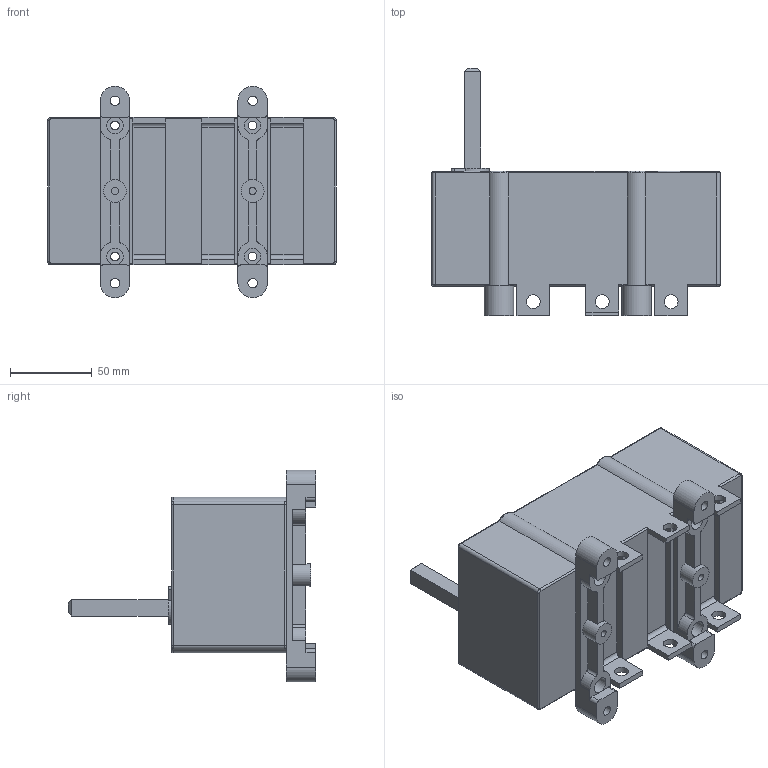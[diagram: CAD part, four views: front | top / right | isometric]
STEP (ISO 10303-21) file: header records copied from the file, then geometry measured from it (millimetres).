
FILE_DESCRIPTION(/* description */ (''),/* implementation_level */ '2;1');
FILE_NAME(/* name */ 'RA250 P3 C.stp',/* time_stamp */ '2021-08-18T08:24:27+02:00',/* author */ (''),/* organization */ (''),/* preprocessor_version */ 'ST-DEVELOPER v18.1',/* originating_system */ 'SIEMENS PLM Software NX 1965',/* authorisation */ '');
FILE_SCHEMA (('AUTOMOTIVE_DESIGN { 1 0 10303 214 3 1 1 1 }'));
Length unit declared in the file: millimetre
Products named in the file (1): RA250 P3 C
Bounding box: 176 x 151 x 129.18 mm (x, y, z)
Volume: 1140443.6 mm3; surface area: 98085.2 mm2
Topology: 1 solids, 1 shells, 208 faces, 550 edges, 357 vertices
Faces by surface type: plane 104, cylinder 92, bspline 8, torus 4
Full cylindrical faces by diameter (mm): 4.3 x2, 5.3 x4, 5.8 x4, 8.5 x6, 10 x8, 14 x2
Entity records: 6602 total; most frequent: CARTESIAN_POINT 1446, DIRECTION 1082, ORIENTED_EDGE 1020, EDGE_CURVE 510, AXIS2_PLACEMENT_3D 387, VERTEX_POINT 338, LINE 308, VECTOR 308
